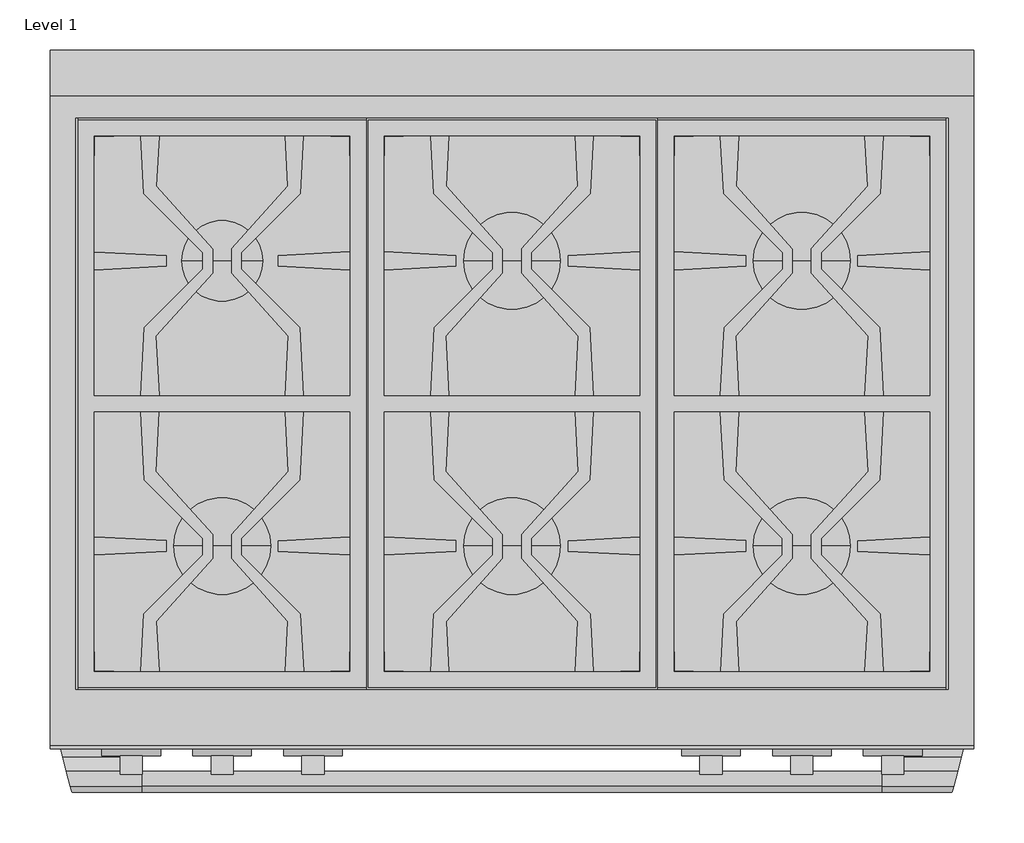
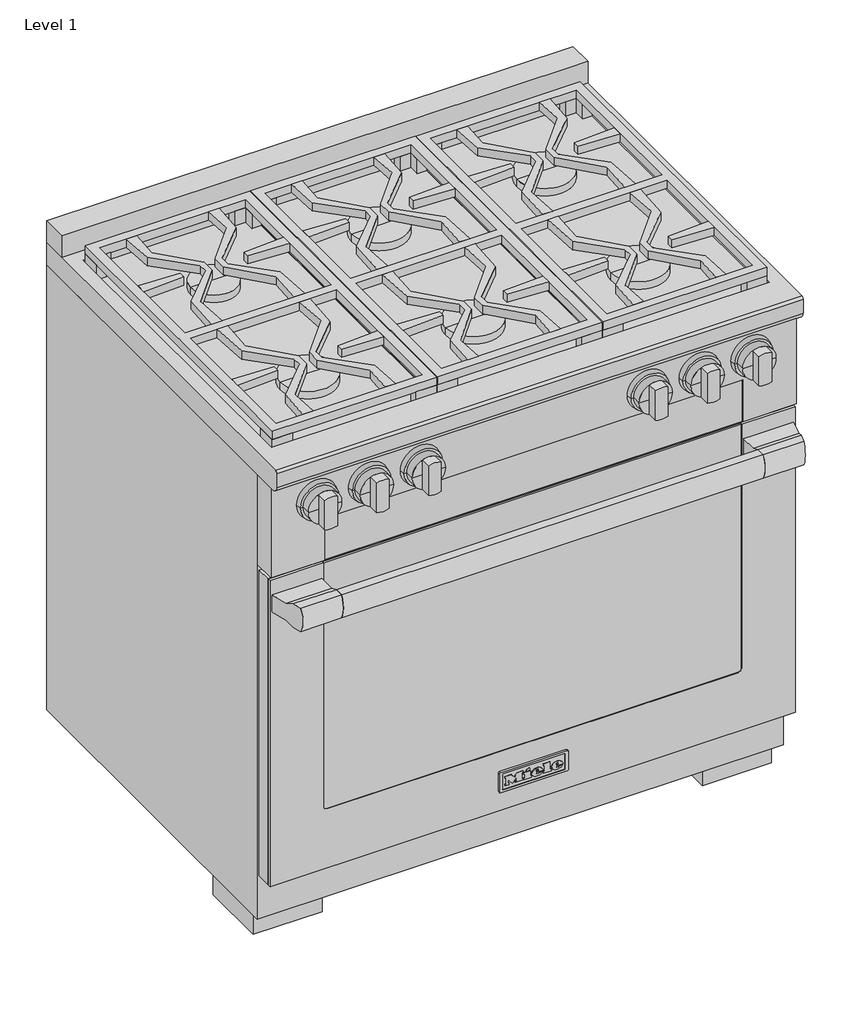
# One storey: 1 proxy.
"""IFC4 building model written with IfcOpenShell, lengths in millimetres."""

from ifc_helpers import new_model, si_unit, origin, place, context, project, spatial, transform, mapped, element, save
from components import specialty_equipment_318ea96c, specialty_equipment_d2eaf5fb

model = new_model("IFC4")

# Units and contexts
model_context = context("Model", 3, world=origin())
ifc_project = project(units=[si_unit("LENGTHUNIT", "METRE", prefix="MILLI")], contexts=[model_context])

# Site, building, storey
site = spatial("IfcSite", under=ifc_project)
building = spatial("IfcBuilding", under=site)
storey = spatial("IfcBuildingStorey", under=building, Name="Level 1", Elevation=0.0)

# Proxy
placement = place(None, origin())
specialty_equipment_shape = specialty_equipment_318ea96c(model_context)
specialty_equipment_2_shape = specialty_equipment_d2eaf5fb(model_context)
element("IfcBuildingElementProxy", 1, Name="10902390_USA_HR1934-2LP_EDST-CLS : 25193472_USA_10902390_HR1934-2LP_EDST-CLS", ObjectType="10902390_USA_HR1934-2LP_EDST-CLS : 25193472_USA_10902390_HR1934-2LP_EDST-CLS", at=placement, inside=storey, context=model_context, shape_type="MappedRepresentation", body=[
    mapped(specialty_equipment_shape, transform((0.0, 0.0, 0.0), x_axis=(1.0, 0.0, 0.0), y_axis=(0.0, 1.0, 0.0), z_axis=(0.0, 0.0, 1.0))),
    mapped(specialty_equipment_2_shape, transform((0.0, 0.0, 0.0), x_axis=(1.0, 0.0, 0.0), y_axis=(0.0, 1.0, 0.0), z_axis=(0.0, 0.0, 1.0))),
])

save(model, "model.ifc")
